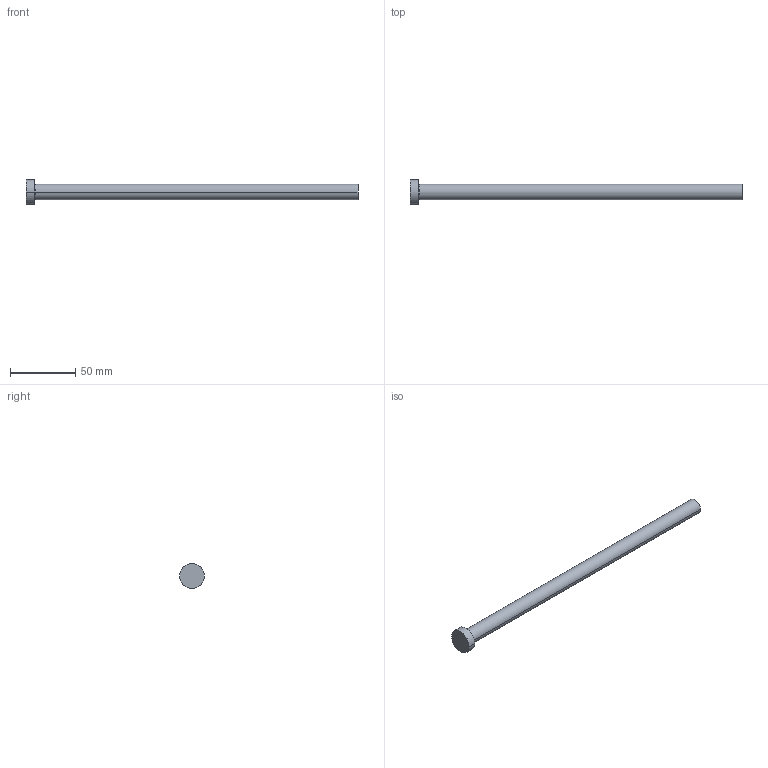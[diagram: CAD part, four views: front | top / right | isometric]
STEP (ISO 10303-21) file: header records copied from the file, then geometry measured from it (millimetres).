
FILE_DESCRIPTION (( 'STEP AP214' ), '1' );
FILE_NAME ('P31-10.STEP', '2020-03-12T10:35:56', ( '' ), ( '' ), 'SwSTEP 2.0', 'SolidWorks 2018', '' );
FILE_SCHEMA (( 'AUTOMOTIVE_DESIGN' ));
Length unit declared in the file: inch
Products named in the file (1): P31-10
Bounding box: 254 x 19.05 x 19.05 mm (x, y, z)
Volume: 29351.4 mm3; surface area: 10188.3 mm2
Topology: 1 solids, 1 shells, 13 faces, 24 edges, 14 vertices
Faces by surface type: cone 4, cylinder 4, plane 3, torus 2
Entity records: 366 total; most frequent: DIRECTION 68, CARTESIAN_POINT 52, ORIENTED_EDGE 48, AXIS2_PLACEMENT_3D 30, EDGE_CURVE 24, CIRCLE 16, EDGE_LOOP 14, VERTEX_POINT 14
